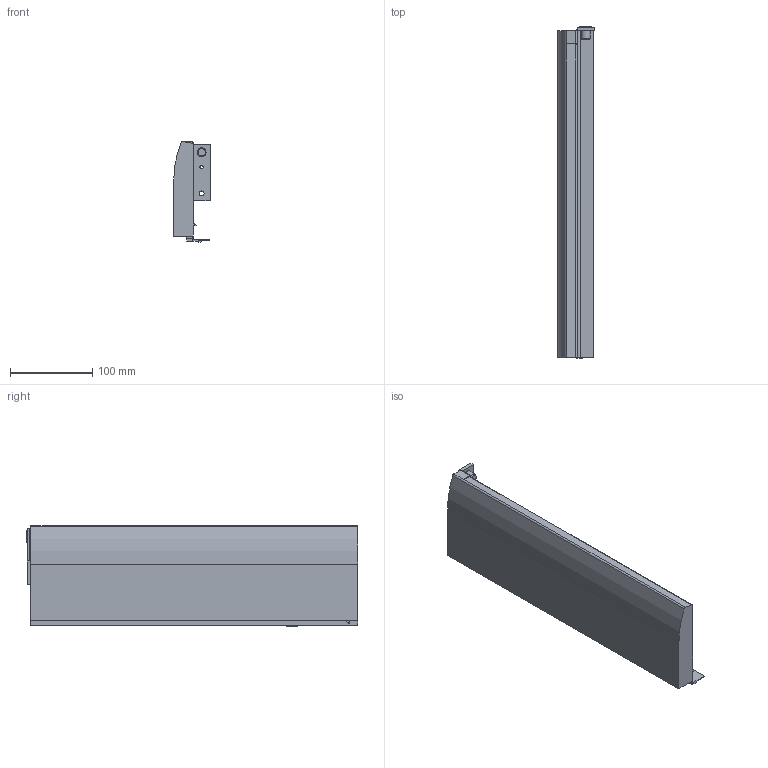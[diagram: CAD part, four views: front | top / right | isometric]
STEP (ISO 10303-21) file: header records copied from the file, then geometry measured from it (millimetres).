
FILE_DESCRIPTION (( 'STEP AP214' ), '1' );
FILE_NAME ('_IMOS_NOVA-Pro_Dekor-H122_DL_NL400_LI.step', '2010-07-14T11:02:16', ( 'grass' ), ( '' ), 'SwSTEP 2.0', 'SolidWorks 2010', '' );
FILE_SCHEMA (( 'AUTOMOTIVE_DESIGN' ));
Length unit declared in the file: millimetre
Products named in the file (1): _IMOS_NOVA-Pro_Dekor-H122_DL_NL400_LI
Bounding box: 44.3 x 402.7 x 122.49 mm (x, y, z)
Volume: 741838.5 mm3; surface area: 165801.9 mm2
Topology: 1 solids, 1 shells, 84 faces, 227 edges, 150 vertices
Faces by surface type: plane 52, cylinder 27, cone 4, bspline 1
Entity records: 2685 total; most frequent: CARTESIAN_POINT 475, DIRECTION 454, ORIENTED_EDGE 454, EDGE_CURVE 227, VECTOR 164, LINE 164, VERTEX_POINT 150, AXIS2_PLACEMENT_3D 145
